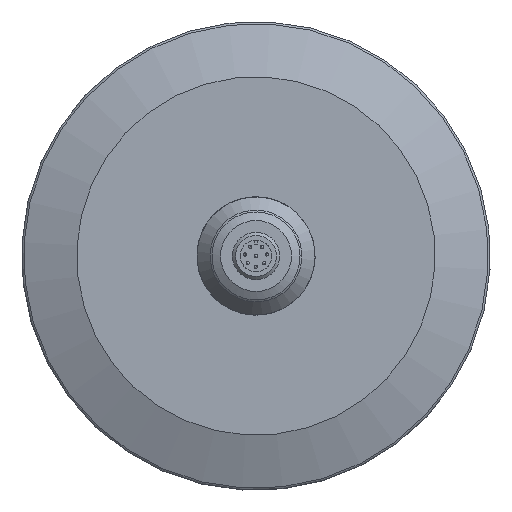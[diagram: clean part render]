
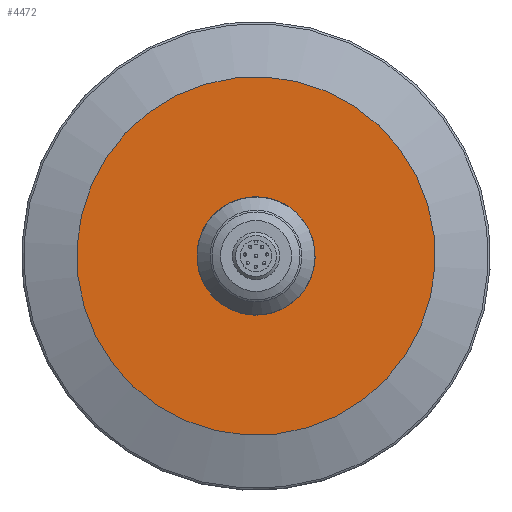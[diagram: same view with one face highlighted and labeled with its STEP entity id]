
A CAD part, front view. The second image highlights one B-rep face of the part: STEP entity #4472.
In plain terms, the highlighted planar face has unit normal (0, -1, 0).
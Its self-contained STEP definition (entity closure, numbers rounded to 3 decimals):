
#656=PLANE('',#4695);
#729=ORIENTED_EDGE('',*,*,#1620,.T.);
#730=ORIENTED_EDGE('',*,*,#1619,.F.);
#1619=EDGE_CURVE('',#2069,#2069,#2375,.T.);
#1620=EDGE_CURVE('',#2070,#2070,#2376,.F.);
#2069=VERTEX_POINT('',#5480);
#2070=VERTEX_POINT('',#5483);
#2375=CIRCLE('',#4694,45.488);
#2376=CIRCLE('',#4696,15.);
#2479=EDGE_LOOP('',(#729));
#2480=EDGE_LOOP('',(#730));
#2747=FACE_BOUND('',#2479,.T.);
#2748=FACE_BOUND('',#2480,.T.);
#4472=ADVANCED_FACE('',(#2747,#2748),#656,.T.);
#4694=AXIS2_PLACEMENT_3D('',#5479,#4928,#4929);
#4695=AXIS2_PLACEMENT_3D('',#5481,#4930,#4931);
#4696=AXIS2_PLACEMENT_3D('',#5482,#4932,#4933);
#4928=DIRECTION('',(0.,1.,0.));
#4929=DIRECTION('',(0.115,0.,-0.993));
#4930=DIRECTION('',(0.,-1.,0.));
#4931=DIRECTION('',(-0.115,0.,0.993));
#4932=DIRECTION('',(0.,-1.,0.));
#4933=DIRECTION('',(0.,0.,-1.));
#5479=CARTESIAN_POINT('',(0.,-3.005,0.));
#5480=CARTESIAN_POINT('',(5.24,-3.005,-45.185));
#5481=CARTESIAN_POINT('',(2.62,-3.005,-22.593));
#5482=CARTESIAN_POINT('',(0.,-3.005,0.));
#5483=CARTESIAN_POINT('',(0.,-3.005,-15.));
